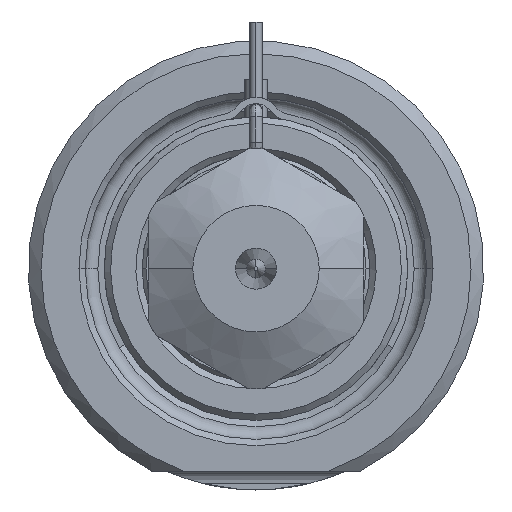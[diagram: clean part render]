
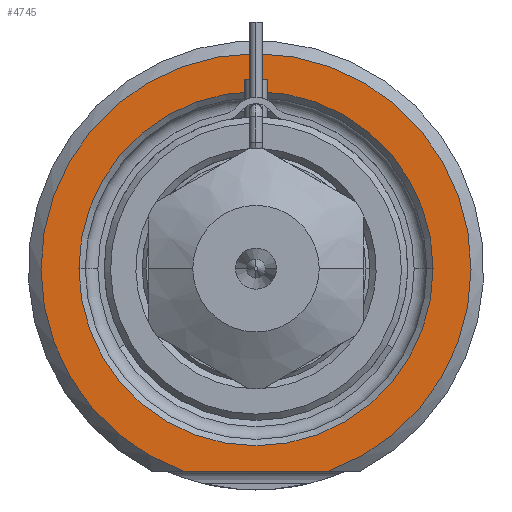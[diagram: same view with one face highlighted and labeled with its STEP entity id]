
A CAD part, front view. The second image highlights one B-rep face of the part: STEP entity #4745.
In plain terms, the highlighted planar face has unit normal (0, -1, 0).
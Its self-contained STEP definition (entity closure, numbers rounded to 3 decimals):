
#1140=CARTESIAN_POINT('',(0.,0.,0.));
#1141=DIRECTION('',(0.,-1.,0.));
#1142=DIRECTION('',(0.338,0.,-0.941));
#1143=AXIS2_PLACEMENT_3D('',#1140,#1141,#1142);
#1164=DIRECTION('',(1.,0.,0.));
#1165=VECTOR('',#1164,11.489);
#1166=CARTESIAN_POINT('',(-5.745,0.,-16.));
#1167=LINE('',#1166,#1165);
#1168=CARTESIAN_POINT('',(0.,0.,0.));
#1169=DIRECTION('',(0.,1.,0.));
#1170=DIRECTION('',(-1.,0.,0.));
#1171=AXIS2_PLACEMENT_3D('',#1168,#1169,#1170);
#1173=CARTESIAN_POINT('',(0.,0.,0.));
#1174=DIRECTION('',(0.,1.,0.));
#1175=DIRECTION('',(1.,0.,0.));
#1176=AXIS2_PLACEMENT_3D('',#1173,#1174,#1175);
#3060=CARTESIAN_POINT('',(-14.,0.,0.));
#3061=CARTESIAN_POINT('',(14.,0.,0.));
#3062=VERTEX_POINT('',#3060);
#3063=VERTEX_POINT('',#3061);
#3100=CARTESIAN_POINT('',(-5.745,0.,-16.));
#3101=CARTESIAN_POINT('',(5.745,0.,-16.));
#3102=VERTEX_POINT('',#3100);
#3103=VERTEX_POINT('',#3101);
#4730=CARTESIAN_POINT('',(0.,0.,0.));
#4731=DIRECTION('',(0.,-1.,0.));
#4732=DIRECTION('',(1.,0.,0.));
#4733=AXIS2_PLACEMENT_3D('',#4730,#4731,#4732);
#4734=PLANE('',#4733);
#4735=ORIENTED_EDGE('',*,*,#4662,.F.);
#4736=ORIENTED_EDGE('',*,*,#4722,.F.);
#4737=EDGE_LOOP('',(#4735,#4736));
#4738=FACE_OUTER_BOUND('',#4737,.F.);
#4740=ORIENTED_EDGE('',*,*,#4739,.F.);
#4742=ORIENTED_EDGE('',*,*,#4741,.F.);
#4743=EDGE_LOOP('',(#4740,#4742));
#4744=FACE_BOUND('',#4743,.F.);
#4745=ADVANCED_FACE('',(#4738,#4744),#4734,.T.);
#1144=CIRCLE('',#1143,17.);
#1172=CIRCLE('',#1171,14.);
#1177=CIRCLE('',#1176,14.);
#4662=EDGE_CURVE('',#3102,#3103,#1167,.T.);
#4722=EDGE_CURVE('',#3103,#3102,#1144,.T.);
#4739=EDGE_CURVE('',#3062,#3063,#1172,.T.);
#4741=EDGE_CURVE('',#3063,#3062,#1177,.T.);
